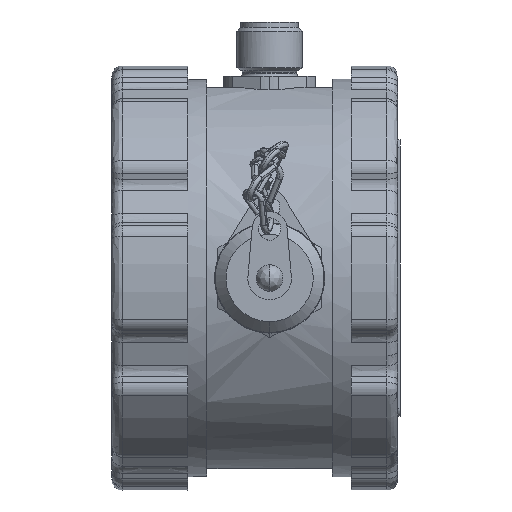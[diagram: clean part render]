
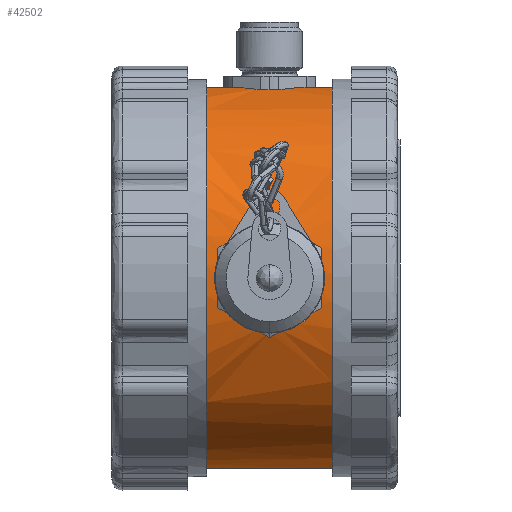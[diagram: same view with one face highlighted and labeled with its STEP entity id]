
A CAD part, left-side view. The second image highlights one B-rep face of the part: STEP entity #42502.
In plain terms, the highlighted free-form (B-spline) face has degree [2, 1] with [7, 2] control points.
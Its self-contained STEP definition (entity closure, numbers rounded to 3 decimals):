
#31901=CARTESIAN_POINT('V2441',(-8.426,
   11.5,-35.0));
#31902=VERTEX_POINT('V2441',#31901);
#31908=CARTESIAN_POINT('V2190',(-8.426,
   11.5,35.0));
#31909=VERTEX_POINT('V2190',#31908);
#31910=CARTESIAN_POINT('E3755',(-8.426,
   11.5,35.0));
#31911=CARTESIAN_POINT('E3755',(-13.49,
   11.5,33.781));
#31912=CARTESIAN_POINT('E3755',(-18.0,11.5,
   31.177));
#31913=CARTESIAN_POINT('E3755',(-72.0,11.5,
   0.));
#31914=CARTESIAN_POINT('E3755',(-18.0,11.5,
   -31.177));
#31915=CARTESIAN_POINT('E3755',(-13.49,
   11.5,-33.781));
#31916=CARTESIAN_POINT('E3755',(-8.426,
   11.5,-35.0));
#31924=(BOUNDED_CURVE()B_SPLINE_CURVE(2,(#31910,#31911,#31912,
   #31913,#31914,#31915,#31916),.CIRCULAR_ARC.,.F.,.U.)
   B_SPLINE_CURVE_WITH_KNOTS((3,2,2,3),(4.586,
   5.422,10.844,11.68),
   .UNSPECIFIED.)CURVE()GEOMETRIC_REPRESENTATION_ITEM()
   RATIONAL_B_SPLINE_CURVE((0.87,0.923,
   1.0,0.5,1.0,0.923,0.87))
   REPRESENTATION_ITEM('E3755'));
#31925=EDGE_CURVE('E3755',#31909,#31902,#31924,.T.);
#31976=CARTESIAN_POINT('V2187',(-8.426,5.385,
   35.0));
#31977=VERTEX_POINT('V2187',#31976);
#31978=CARTESIAN_POINT('E3339',(-8.426,5.385,
   35.0));
#31979=CARTESIAN_POINT('E3339',(-8.426,
   11.5,35.0));
#31980=B_SPLINE_CURVE_WITH_KNOTS('E3339',1,(#31978,#31979),
   .POLYLINE_FORM.,.F.,.U.,(2,2),(0.974,
   1.327),.UNSPECIFIED.);
#31981=EDGE_CURVE('E3339',#31977,#31909,#31980,.T.);
#32249=CARTESIAN_POINT('V2646',(-8.426,
   -11.5,-35.0));
#32250=VERTEX_POINT('V2646',#32249);
#32256=CARTESIAN_POINT('E4111',(-8.426,
   11.5,-35.0));
#32257=CARTESIAN_POINT('E4111',(-8.426,
   -11.5,-35.0));
#32258=B_SPLINE_CURVE_WITH_KNOTS('E4111',1,(#32256,#32257),
   .POLYLINE_FORM.,.F.,.U.,(2,2),(0.35,
   1.715),.UNSPECIFIED.);
#32259=EDGE_CURVE('E4111',#31902,#32250,#32258,.T.);
#42268=CARTESIAN_POINT('V2198',(-8.426,
   -11.5,35.0));
#42269=VERTEX_POINT('V2198',#42268);
#42275=CARTESIAN_POINT('E4116',(-8.426,
   -11.5,-35.0));
#42276=CARTESIAN_POINT('E4116',(-36.0,-11.5,
   -28.362));
#42277=CARTESIAN_POINT('E4116',(-36.0,-11.5,
   0.));
#42278=CARTESIAN_POINT('E4116',(-36.0,-11.5,
   28.362));
#42279=CARTESIAN_POINT('E4116',(-8.426,
   -11.5,35.0));
#42287=(BOUNDED_CURVE()B_SPLINE_CURVE(2,(#42275,#42276,#42277,
   #42278,#42279),.CIRCULAR_ARC.,.F.,.U.)B_SPLINE_CURVE_WITH_KNOTS(
   (3,2,3),(0.0,5.672,11.345),
   .UNSPECIFIED.)CURVE()GEOMETRIC_REPRESENTATION_ITEM()
   RATIONAL_B_SPLINE_CURVE((1.0,0.786,1.0,
   0.786,1.0))REPRESENTATION_ITEM('E4116'));
#42288=EDGE_CURVE('E4116',#32250,#42269,#42287,.T.);
#42298=CARTESIAN_POINT('V2186',(-8.426,
   -5.385,35.0));
#42299=VERTEX_POINT('V2186',#42298);
#42300=CARTESIAN_POINT('E3349',(-8.426,
   -11.5,35.0));
#42301=CARTESIAN_POINT('E3349',(-8.426,
   -5.385,35.0));
#42302=B_SPLINE_CURVE_WITH_KNOTS('E3349',1,(#42300,#42301),
   .POLYLINE_FORM.,.F.,.U.,(2,2),(0.0,0.353),
   .UNSPECIFIED.);
#42303=EDGE_CURVE('E3349',#42269,#42299,#42302,.T.);
#42416=CARTESIAN_POINT('E3334',(-8.426,
   -5.385,35.0));
#42417=CARTESIAN_POINT('E3334',(-9.219,
   -4.143,34.809));
#42418=CARTESIAN_POINT('E3334',(-9.819,
   -2.596,34.635));
#42419=CARTESIAN_POINT('E3334',(-10.042,
   0.09,34.571));
#42420=CARTESIAN_POINT('E3334',(-9.991,1.009,
   34.586));
#42421=CARTESIAN_POINT('E3334',(-9.564,3.206,
   34.707));
#42422=CARTESIAN_POINT('E3334',(-9.07,4.377,
   34.845));
#42423=CARTESIAN_POINT('E3334',(-8.426,5.385,
   35.0));
#42424=B_SPLINE_CURVE_WITH_KNOTS('E3334',3,(#42416,#42417,#42418,
   #42419,#42420,#42421,#42422,#42423),.UNSPECIFIED.,.F.,.U.,(4,2,2,
   4),(0.309,0.463,0.542,
   0.656),.UNSPECIFIED.);
#42425=EDGE_CURVE('E3334',#42299,#31977,#42424,.T.);
#42432=CARTESIAN_POINT('F1542',(36.0,11.5,0.0));
#42433=CARTESIAN_POINT('F1542',(36.0,11.5,
   62.354));
#42434=CARTESIAN_POINT('F1542',(-18.0,11.5,
   31.177));
#42435=CARTESIAN_POINT('F1542',(-72.0,11.5,
   0.));
#42436=CARTESIAN_POINT('F1542',(-18.0,11.5,
   -31.177));
#42437=CARTESIAN_POINT('F1542',(36.0,11.5,
   -62.354));
#42438=CARTESIAN_POINT('F1542',(36.0,11.5,0.0));
#42439=CARTESIAN_POINT('F1542',(36.0,-11.5,0.0));
#42440=CARTESIAN_POINT('F1542',(36.0,-11.5,
   62.354));
#42441=CARTESIAN_POINT('F1542',(-18.0,-11.5,
   31.177));
#42442=CARTESIAN_POINT('F1542',(-72.0,-11.5,
   0.));
#42443=CARTESIAN_POINT('F1542',(-18.0,-11.5,
   -31.177));
#42444=CARTESIAN_POINT('F1542',(36.0,-11.5,
   -62.354));
#42445=CARTESIAN_POINT('F1542',(36.0,-11.5,0.0));
#42453=(BOUNDED_SURFACE()B_SPLINE_SURFACE(2,1,((#42432,#42439),(
   #42433,#42440),(#42434,#42441),(#42435,#42442),(#42436,
   #42443),(#42437,#42444),(#42438,#42445)),.CYLINDRICAL_SURF.,
   .T.,.F.,.U.)B_SPLINE_SURFACE_WITH_KNOTS((3,2,2,3),(2,2),(0.0,
   5.422,10.844,16.266),(0.0,
   1.0),.UNSPECIFIED.)GEOMETRIC_REPRESENTATION_ITEM()
   RATIONAL_B_SPLINE_SURFACE(((1.0,1.0),(0.5,
   0.5),(1.0,1.0),(0.5,
   0.5),(1.0,1.0),(0.5,
   0.5),(1.0,1.0)))REPRESENTATION_ITEM('F1542')
   SURFACE());
#42454=ORIENTED_EDGE('E3334',*,*,#42425,.T.);
#42455=ORIENTED_EDGE('E3339',*,*,#31981,.T.);
#42456=ORIENTED_EDGE('E3755',*,*,#31925,.T.);
#42457=ORIENTED_EDGE('E4111',*,*,#32259,.T.);
#42458=ORIENTED_EDGE('F1546',*,*,#42288,.T.);
#42459=ORIENTED_EDGE('E3349',*,*,#42303,.T.);
#42460=EDGE_LOOP('F1542',(#42454,#42455,#42456,#42457,#42458,#42459)
   );
#42461=FACE_OUTER_BOUND('F1542',#42460,.T.);
#42462=CARTESIAN_POINT('V2199',(-36.0,10.0,0.));
#42463=VERTEX_POINT('V2199',#42462);
#42464=CARTESIAN_POINT('E3350',(-36.0,10.0,0.));
#42465=CARTESIAN_POINT('E3350',(-36.0,10.0,1.024));
#42466=CARTESIAN_POINT('E3350',(-35.955,
   9.843,2.04));
#42467=CARTESIAN_POINT('E3350',(-35.698,
   8.875,5.1));
#42468=CARTESIAN_POINT('E3350',(-35.37,
   7.585,6.815));
#42469=CARTESIAN_POINT('E3350',(-34.875,
   4.685,8.984));
#42470=CARTESIAN_POINT('E3350',(-34.657,
   2.996,9.743));
#42471=CARTESIAN_POINT('E3350',(-34.572,
   0.15,10.038));
#42472=CARTESIAN_POINT('E3350',(-34.58,
   -0.737,10.012));
#42473=CARTESIAN_POINT('E3350',(-34.66,
   -2.45,9.733));
#42474=CARTESIAN_POINT('E3350',(-34.729,
   -3.265,9.49));
#42475=CARTESIAN_POINT('E3350',(-34.979,
   -5.422,8.537));
#42476=CARTESIAN_POINT('E3350',(-35.2,
   -6.626,7.631));
#42477=CARTESIAN_POINT('E3350',(-35.613,
   -8.554,5.391));
#42478=CARTESIAN_POINT('E3350',(-35.82,
   -9.337,3.965));
#42479=CARTESIAN_POINT('E3350',(-35.975,
   -9.909,1.552));
#42480=CARTESIAN_POINT('E3350',(-36.0,-10.,
   0.778));
#42481=CARTESIAN_POINT('E3350',(-36.0,-10.,
   0.));
#42482=CARTESIAN_POINT('E3350',(-36.0,-10.,
   -1.245));
#42483=CARTESIAN_POINT('E3350',(-35.934,
   -9.768,-2.476));
#42484=CARTESIAN_POINT('E3350',(-35.626,
   -8.586,-5.506));
#42485=CARTESIAN_POINT('E3350',(-35.321,
   -7.336,-7.051));
#42486=CARTESIAN_POINT('E3350',(-34.86,
   -4.552,-9.036));
#42487=CARTESIAN_POINT('E3350',(-34.661,
   -2.958,-9.731));
#42488=CARTESIAN_POINT('E3350',(-34.572,
   -0.212,-10.039));
#42489=CARTESIAN_POINT('E3350',(-34.579,
   0.7,-10.017));
#42490=CARTESIAN_POINT('E3350',(-34.709,
   3.518,-9.561));
#42491=CARTESIAN_POINT('E3350',(-34.945,
   5.172,-8.721));
#42492=CARTESIAN_POINT('E3350',(-35.418,
   7.751,-6.542));
#42493=CARTESIAN_POINT('E3350',(-35.683,
   8.811,-5.078));
#42494=CARTESIAN_POINT('E3350',(-35.945,
   9.806,-2.265));
#42495=CARTESIAN_POINT('E3350',(-36.0,10.0,-1.138));
#42496=CARTESIAN_POINT('E3350',(-36.0,10.0,0.));
#42497=B_SPLINE_CURVE_WITH_KNOTS('E3350',3,(#42464,#42465,#42466,
   #42467,#42468,#42469,#42470,#42471,#42472,#42473,#42474,#42475,
   #42476,#42477,#42478,#42479,#42480,#42481,#42482,#42483,#42484,
   #42485,#42486,#42487,#42488,#42489,#42490,#42491,#42492,#42493,
   #42494,#42495,#42496),.UNSPECIFIED.,.T.,.U.,(4,2,2,2,2,2,2,2,3,2,
   2,2,2,2,2,4),(0.0,0.103,0.322,
   0.501,0.581,0.658,
   0.796,0.936,1.0,1.121,
   1.316,1.477,1.556,
   1.724,1.895,2.0),.UNSPECIFIED.);
#42498=EDGE_CURVE('E3350',#42463,#42463,#42497,.T.);
#42499=ORIENTED_EDGE('E3350',*,*,#42498,.T.);
#42500=EDGE_LOOP('F1542',(#42499));
#42501=FACE_BOUND('F1542',#42500,.T.);
#42502=ADVANCED_FACE('F1542',(#42461,#42501),#42453,.T.);
